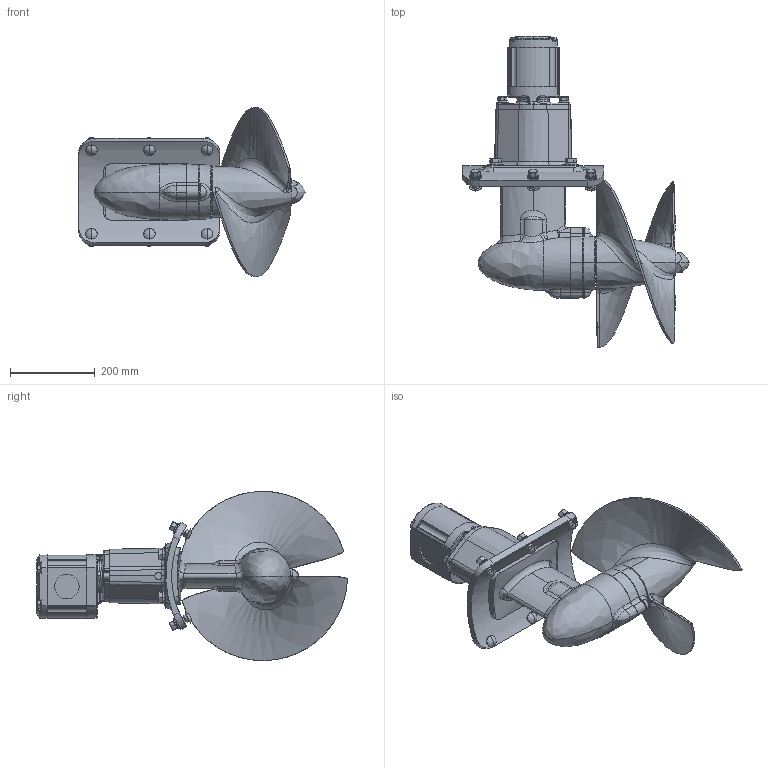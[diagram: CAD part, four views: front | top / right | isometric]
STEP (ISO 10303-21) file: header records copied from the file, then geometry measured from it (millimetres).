
FILE_DESCRIPTION (( 'STEP AP214' ), '1' );
FILE_NAME ('KP16X-H-TH_revA.STEP', '2021-02-12T22:09:18', ( '' ), ( '' ), 'SwSTEP 2.0', 'SolidWorks 2019', '' );
FILE_SCHEMA (( 'AUTOMOTIVE_DESIGN' ));
Length unit declared in the file: inch
Products named in the file (2): KP16X-H-TH_revA
Bounding box: 535.46 x 734.85 x 400.05 mm (x, y, z)
Volume: 13031522.7 mm3; surface area: 860007.7 mm2
Topology: 2 solids, 2 shells, 1040 faces, 2537 edges, 1507 vertices
Faces by surface type: plane 315, cylinder 295, bspline 196, cone 159, torus 57, sphere 18
Entity records: 48899 total; most frequent: CARTESIAN_POINT 26570, ORIENTED_EDGE 4988, DIRECTION 4280, EDGE_CURVE 2494, AXIS2_PLACEMENT_3D 1748, VERTEX_POINT 1503, EDGE_LOOP 1089, FACE_OUTER_BOUND 1040
